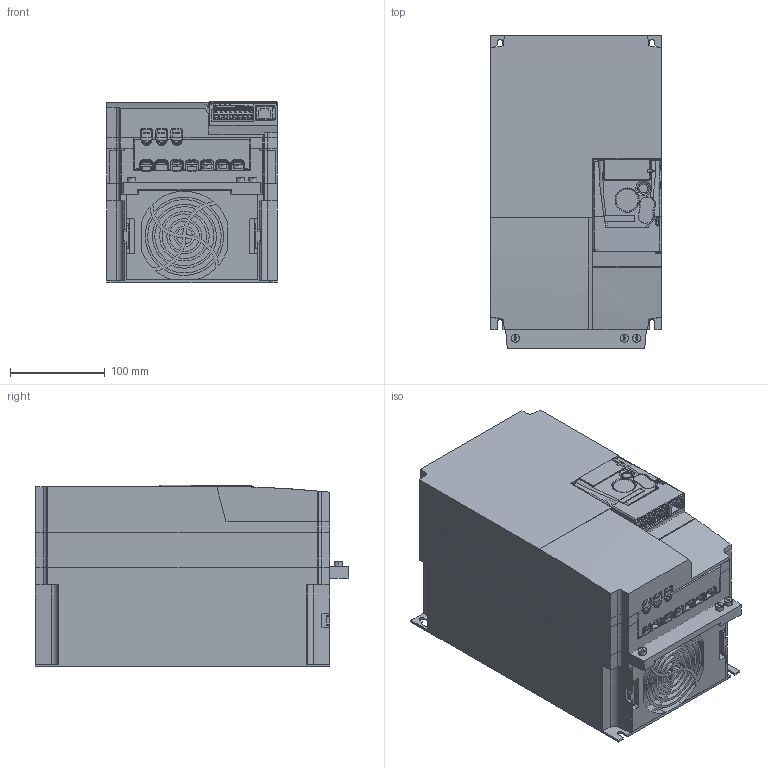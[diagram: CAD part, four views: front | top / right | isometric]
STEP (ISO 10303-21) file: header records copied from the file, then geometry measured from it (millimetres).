
FILE_DESCRIPTION((''),'2;1');
FILE_NAME('SIMPLIFIED_ASM_1_ASM_1_ASM_1_ASM','2021-01-29T15:09:45',('danae.lavaud'),(''),'CREO PARAMETRIC BY PTC INC, 2018260','CREO PARAMETRIC BY PTC INC, 2018260','');
FILE_SCHEMA(('CONFIG_CONTROL_DESIGN'));
Products named in the file (36): PRT0005_2_1_1_1_1_1; PRT0006_1_1_1_1_1_1_1; PRT0007_1_1_1_1_1_1_1; PRT0008_1_1_1_1_1_1; R3_DRV-PCBA_S5C3_1_1_1_1_1_1_1; PRT0006_1_1_1_1_1_2_1_1_1_1_1_1; ASM0002_ASM_1_ASM_1_ASM_1_ASM_1_ASM; PRT0005_1_1; PRT0006_1_1; RJ45_406541-1_AMP__MIG17_1_1_1_; 1729186_MIG17_1_1_1_1_1_1_1; X3_PLAGE_FLASHAGE_MIG17_1_1_2_A; DINKLE_ELK508S_3P_MIG17_1_1_1_1; DINKLE_ELK508S_4P_MIG17_1_1_1_1; ST00096_MIG17_ASM_1_1_ASM_1_ASM_ASM; AAV4866001_MIG17_1_1_1_1_1_1_1; AAV4865801_MIG17_1_1_1_1_1_1_1; AAV9062201_MIG17_1_1_2_1_1_1_1_; AAV9062201_MIG17_1_1_2_2_1_1_1_; AAV9062201_MIG17_1_1_2_ASM_1_AS_ASM; AAV4865901_MIG17_1_1_1_1_1_1_1; AAV8876901_MIG17_1_1_1_1_1_1_1; AAV8750901_1_1_1_1_1_1_1; DOOR_FOR_SCHNEIDER_ASM_1_1_1_1_; S1A3914301_1_1_1_1_1_1_1; HMI_LABEL_1_1_1_1_1_1_1; S1A4256601_1_1_2_1_1_1_1_1_1; S1A4256601_1_1_2_2_1_1_1_1_1; S1A4256601_1_1_2_ASM_1_ASM_1_AS_ASM; NHA8469201_1_1_1_1_1_1_1; S1A4174701_ASM_1_1_ASM_1_ASM_1__ASM; AAV8783301_1_1_1_1; PRT0005; PRT0006; PRT0008; SIMPLIFIED_ASM_1_ASM_1_ASM_1_ASM
Assembly tree (37 placements, depth 4):
  SIMPLIFIED_ASM_1_ASM_1_ASM_1_ASM
    PRT0005_2_1_1_1_1_1
    PRT0006_1_1_1_1_1_1_1
    PRT0007_1_1_1_1_1_1_1
    PRT0008_1_1_1_1_1_1
    R3_DRV-PCBA_S5C3_1_1_1_1_1_1_1
    ASM0002_ASM_1_ASM_1_ASM_1_ASM_1_ASM
      PRT0006_1_1_1_1_1_2_1_1_1_1_1_1  x3
    PRT0005_1_1
    PRT0006_1_1
    RJ45_406541-1_AMP__MIG17_1_1_1_
    ST00096_MIG17_ASM_1_1_ASM_1_ASM_ASM
      1729186_MIG17_1_1_1_1_1_1_1
      X3_PLAGE_FLASHAGE_MIG17_1_1_2_A
      DINKLE_ELK508S_3P_MIG17_1_1_1_1
      DINKLE_ELK508S_4P_MIG17_1_1_1_1
    S1A4174701_ASM_1_1_ASM_1_ASM_1__ASM
      AAV4866001_MIG17_1_1_1_1_1_1_1
      AAV4865801_MIG17_1_1_1_1_1_1_1
      AAV9062201_MIG17_1_1_2_ASM_1_AS_ASM
        AAV9062201_MIG17_1_1_2_1_1_1_1_
        AAV9062201_MIG17_1_1_2_2_1_1_1_
      AAV4865901_MIG17_1_1_1_1_1_1_1
      AAV8876901_MIG17_1_1_1_1_1_1_1
      AAV8750901_1_1_1_1_1_1_1
      DOOR_FOR_SCHNEIDER_ASM_1_1_1_1_
      S1A3914301_1_1_1_1_1_1_1
      HMI_LABEL_1_1_1_1_1_1_1
      S1A4256601_1_1_2_ASM_1_ASM_1_AS_ASM
        S1A4256601_1_1_2_1_1_1_1_1_1
        S1A4256601_1_1_2_2_1_1_1_1_1
      NHA8469201_1_1_1_1_1_1_1
    AAV8783301_1_1_1_1
    PRT0005
    PRT0006
    PRT0008
Bounding box: 180 x 330 x 191.35 mm (x, y, z)
Volume: 6957753.2 mm3; surface area: 822521.4 mm2
Topology: 38 solids, 48 shells, 3467 faces, 9647 edges, 6271 vertices
Faces by surface type: plane 2653, cylinder 529, cone 167, bspline 41, torus 40, extrusion 24, sphere 13
Entity records: 113401 total; most frequent: CARTESIAN_POINT 24334, ORIENTED_EDGE 19098, DIRECTION 17303, EDGE_CURVE 9549, VECTOR 7507, LINE 7483, VERTEX_POINT 6215, AXIS2_PLACEMENT_3D 4898
